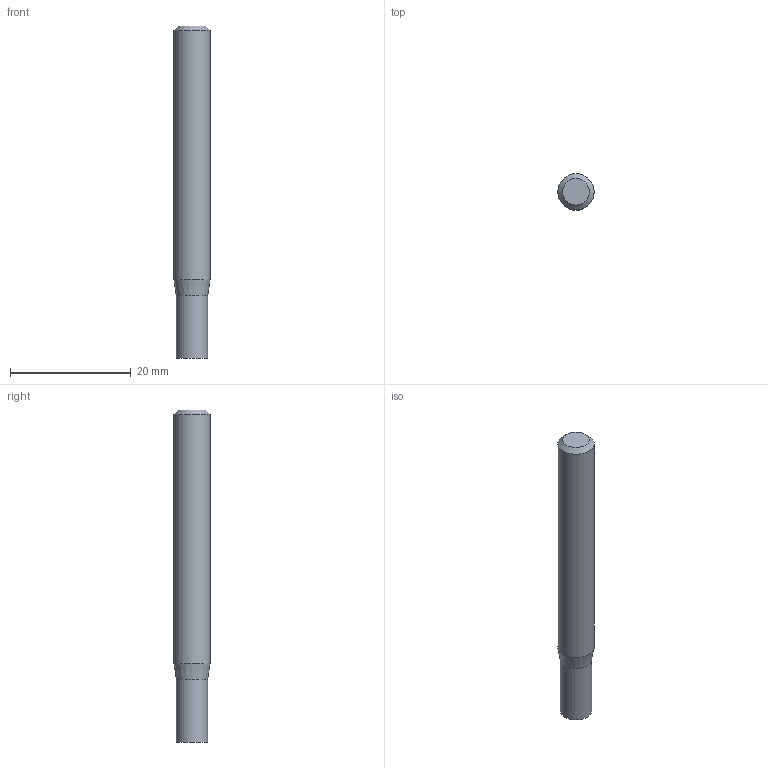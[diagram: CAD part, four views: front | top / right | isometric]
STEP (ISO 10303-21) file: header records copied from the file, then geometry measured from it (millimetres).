
FILE_DESCRIPTION((''),'2;1');
FILE_NAME('C:\Users\nsx150\AppData\Local\Temp\Mastercam 2021\98T1Q6BTT1\TEMP.step','2021-10-21T14:48:49',(''),(''),'STEP Write','Mastercam 2021 ... CNC Software, Inc.','');
FILE_SCHEMA(('AUTOMOTIVE_DESIGN'));
Length unit declared in the file: millimetre
Products named in the file (1): None
Bounding box: 6 x 6 x 55 mm (x, y, z)
Volume: 1467.3 mm3; surface area: 1090.3 mm2
Topology: 2 solids, 2 shells, 8 faces, 10 edges, 6 vertices
Faces by surface type: plane 4, cylinder 2, cone 2
Full cylindrical faces by diameter (mm): 5.2 x1, 6 x1
Entity records: 190 total; most frequent: DIRECTION 32, CARTESIAN_POINT 22, AXIS2_PLACEMENT_3D 16, ORIENTED_EDGE 12, EDGE_LOOP 12, STYLED_ITEM 11, ADVANCED_FACE 8, VERTEX_POINT 6
